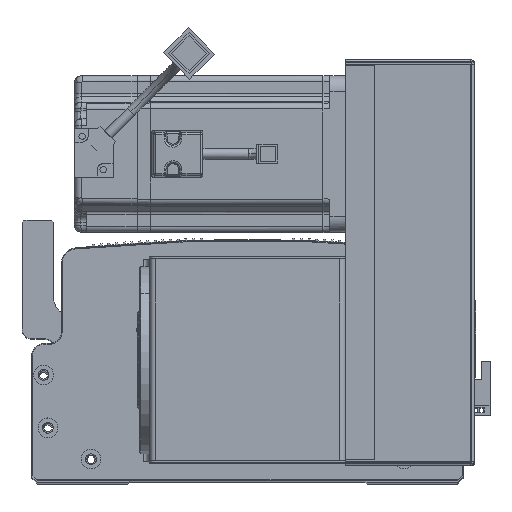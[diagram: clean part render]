
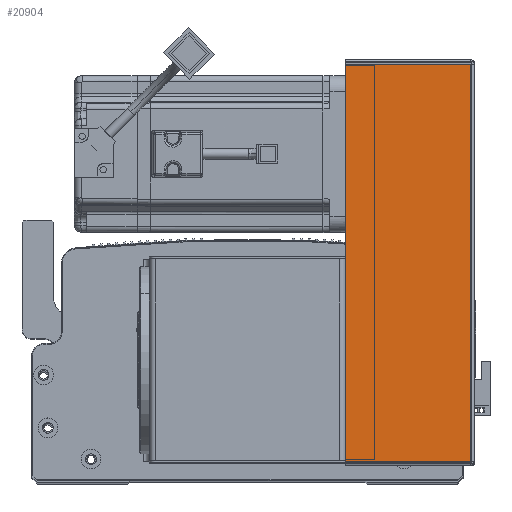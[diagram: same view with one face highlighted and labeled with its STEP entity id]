
A CAD part, top view. The second image highlights one B-rep face of the part: STEP entity #20904.
In plain terms, the highlighted planar face has unit normal (0, 0, 1) as drawn and (0, -1, 0) by its records, which use the part's own axes.
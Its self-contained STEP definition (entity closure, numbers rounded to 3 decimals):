
#3614 = LINE ( 'NONE', #3723, #42940 ) ;
#3723 = CARTESIAN_POINT ( 'NONE',  ( 0.737, -1.5, 0. ) ) ;
#4407 = EDGE_LOOP ( 'NONE', ( #20876, #49682, #26838, #75572 ) ) ;
#9757 = CARTESIAN_POINT ( 'NONE',  ( 64.5, -1.5, -203.293 ) ) ;
#12203 = EDGE_CURVE ( 'NONE', #69509, #19646, #44972, .T. ) ;
#12868 = CARTESIAN_POINT ( 'NONE',  ( 0.737, -1.5, -203.293 ) ) ;
#15117 = FACE_OUTER_BOUND ( 'NONE', #4407, .T. ) ;
#18283 = VERTEX_POINT ( 'NONE', #12868 ) ;
#19569 = LINE ( 'NONE', #26935, #21517 ) ;
#19646 = VERTEX_POINT ( 'NONE', #42302 ) ;
#20876 = ORIENTED_EDGE ( 'NONE', *, *, #30236, .F. ) ;
#20904 = ADVANCED_FACE ( 'NONE', ( #15117 ), #41952, .F. ) ;
#21517 = VECTOR ( 'NONE', #71098, 1000. ) ;
#23760 = VECTOR ( 'NONE', #43084, 1000. ) ;
#26838 = ORIENTED_EDGE ( 'NONE', *, *, #41920, .T. ) ;
#26935 = CARTESIAN_POINT ( 'NONE',  ( 0., -1.5, -203.293 ) ) ;
#30236 = EDGE_CURVE ( 'NONE', #18283, #69509, #3614, .T. ) ;
#36357 = EDGE_CURVE ( 'NONE', #18283, #78476, #19569, .T. ) ;
#41920 = EDGE_CURVE ( 'NONE', #78476, #19646, #59143, .T. ) ;
#41952 = PLANE ( 'NONE',  #74366 ) ;
#42302 = CARTESIAN_POINT ( 'NONE',  ( 64.5, -1.5, -0.707 ) ) ;
#42940 = VECTOR ( 'NONE', #66573, 1000. ) ;
#43084 = DIRECTION ( 'NONE',  ( 0., 0., 1. ) ) ;
#44972 = LINE ( 'NONE', #71467, #69534 ) ;
#47988 = DIRECTION ( 'NONE',  ( 0., 1., 0. ) ) ;
#48265 = DIRECTION ( 'NONE',  ( -1., 0., 0. ) ) ;
#49682 = ORIENTED_EDGE ( 'NONE', *, *, #36357, .T. ) ;
#49905 = CARTESIAN_POINT ( 'NONE',  ( 64.5, -1.5, 0. ) ) ;
#59143 = LINE ( 'NONE', #49905, #23760 ) ;
#60620 = CARTESIAN_POINT ( 'NONE',  ( 0., -1.5, 0. ) ) ;
#65430 = CARTESIAN_POINT ( 'NONE',  ( 0.737, -1.5, -0.707 ) ) ;
#66573 = DIRECTION ( 'NONE',  ( 0., 0., 1. ) ) ;
#69509 = VERTEX_POINT ( 'NONE', #65430 ) ;
#69534 = VECTOR ( 'NONE', #72002, 1000. ) ;
#71098 = DIRECTION ( 'NONE',  ( 1., 0., 0. ) ) ;
#71467 = CARTESIAN_POINT ( 'NONE',  ( 0., -1.5, -0.707 ) ) ;
#72002 = DIRECTION ( 'NONE',  ( 1., 0., 0. ) ) ;
#74366 = AXIS2_PLACEMENT_3D ( 'NONE', #60620, #47988, #48265 ) ;
#75572 = ORIENTED_EDGE ( 'NONE', *, *, #12203, .F. ) ;
#78476 = VERTEX_POINT ( 'NONE', #9757 ) ;
